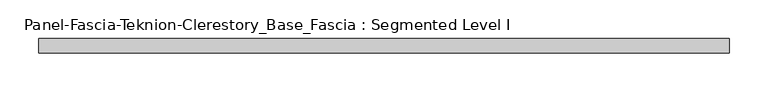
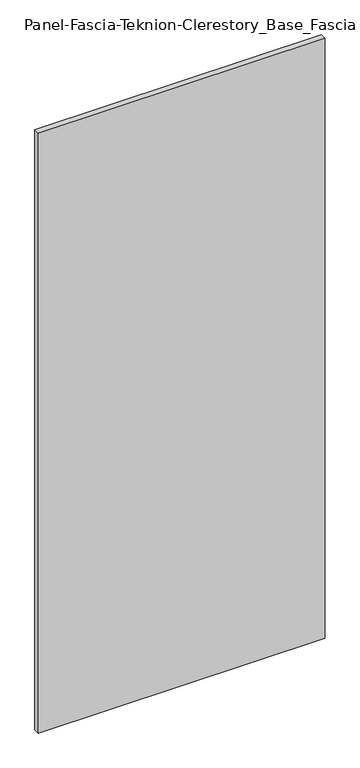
"""IFC4 building model written with IfcOpenShell, lengths in millimetres: proxy geometry, Panel-Fascia-Teknion-Clerestory_Base_Fascia : Segmented Level I."""

from ifc_helpers import new_model, si_unit, frame, origin, place, context, project, spatial, polyline, outline, extrude, source, transform, mapped, element, save


def panel_fascia_teknion_clerestory_base_fascia_segmented_level_73441add(model_context):
    return source(origin(), model_context, "Body", "SweptSolid", [
        extrude(outline(polyline([(447.6198344, 9.525), (447.6198344, -9.525), (-447.6198344, -9.525), (-447.6198344, 9.525), (447.6198344, 9.525)])), frame((0.0, 0.0, 3.175), z_axis=(0.0, 0.0, 1.0), x_axis=(1.0, 0.0, 0.0)), (0.0, 0.0, 1.0), 1979.168),
    ])


if __name__ == "__main__":
    model = new_model("IFC4")
    model_context = context("Model", 3, world=origin())
    ifc_project = project(units=[si_unit("LENGTHUNIT", "METRE", prefix="MILLI")], contexts=[model_context])
    site = spatial("IfcSite", under=ifc_project)
    building = spatial("IfcBuilding", under=site)
    placement = place(None, origin())
    panel_fascia_teknion_clerestory_base_fascia_segmented_level_shape = panel_fascia_teknion_clerestory_base_fascia_segmented_level_73441add(model_context)
    element("IfcBuildingElementProxy", 1, Name="Panel-Fascia-Teknion-Clerestory_Base_Fascia : Segmented Level I", ObjectType="Panel-Fascia-Teknion-Clerestory_Base_Fascia : Segmented Level I", at=placement, inside=building, context=model_context, shape_type="MappedRepresentation", body=[
        mapped(panel_fascia_teknion_clerestory_base_fascia_segmented_level_shape, transform((0.0, 0.0, 0.0), x_axis=(1.0, 0.0, 0.0), y_axis=(0.0, 1.0, 0.0), z_axis=(0.0, 0.0, 1.0))),
    ])
    save(model, "model.ifc")
